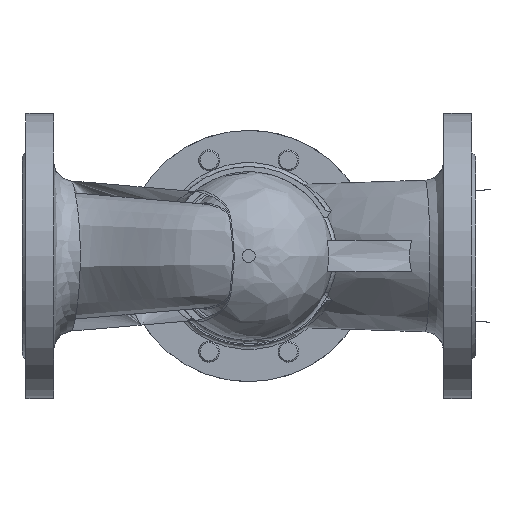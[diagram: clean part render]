
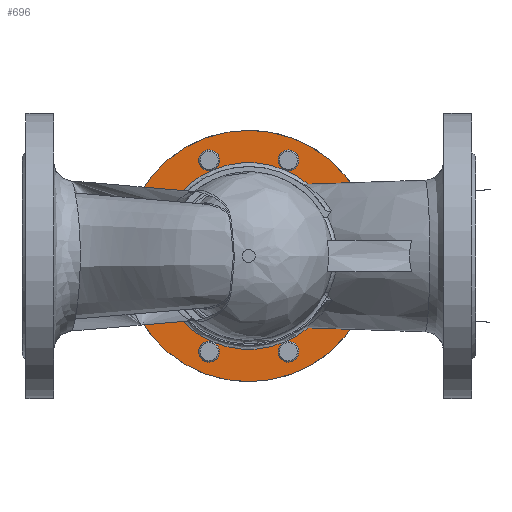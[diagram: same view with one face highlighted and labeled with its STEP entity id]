
A CAD part, front view. The second image highlights one B-rep face of the part: STEP entity #696.
In plain terms, the highlighted planar face has unit normal (0, -1, 0).
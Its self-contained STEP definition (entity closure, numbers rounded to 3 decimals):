
#696=ADVANCED_FACE('',(#16149,#16151,#16153,#16155,#16157,#16159,#16161,#16163,#16165,
#16167),#16169,.F.);
#16149=FACE_BOUND('',#16150,.T.);
#16150=EDGE_LOOP('',(#24877));
#16151=FACE_BOUND('',#16152,.T.);
#16152=EDGE_LOOP('',(#24878));
#16153=FACE_BOUND('',#16154,.T.);
#16154=EDGE_LOOP('',(#24879));
#16155=FACE_BOUND('',#16156,.T.);
#16156=EDGE_LOOP('',(#24880));
#16157=FACE_BOUND('',#16158,.T.);
#16158=EDGE_LOOP('',(#24881));
#16159=FACE_BOUND('',#16160,.T.);
#16160=EDGE_LOOP('',(#24882));
#16161=FACE_BOUND('',#16162,.T.);
#16162=EDGE_LOOP('',(#24883));
#16163=FACE_BOUND('',#16164,.T.);
#16164=EDGE_LOOP('',(#24884));
#16165=FACE_BOUND('',#16166,.T.);
#16166=EDGE_LOOP('',(#24885));
#16167=FACE_OUTER_BOUND('',#16168,.T.);
#16168=EDGE_LOOP('',(#24886));
#16169=PLANE('',#16170);
#16170=AXIS2_PLACEMENT_3D('',#16171,#16172,#16173);
#16171=CARTESIAN_POINT('',(175.,260.974,-110.));
#16172=DIRECTION('',(0.,1.,0.));
#16173=DIRECTION('',(1.,0.,0.));
#24877=ORIENTED_EDGE('',*,*,#27024,.F.);
#24878=ORIENTED_EDGE('',*,*,#27025,.F.);
#24879=ORIENTED_EDGE('',*,*,#27026,.F.);
#24880=ORIENTED_EDGE('',*,*,#27027,.F.);
#24881=ORIENTED_EDGE('',*,*,#27028,.F.);
#24882=ORIENTED_EDGE('',*,*,#27029,.F.);
#24883=ORIENTED_EDGE('',*,*,#27030,.F.);
#24884=ORIENTED_EDGE('',*,*,#27031,.F.);
#24885=ORIENTED_EDGE('',*,*,#27032,.T.);
#24886=ORIENTED_EDGE('',*,*,#27020,.F.);
#27020=EDGE_CURVE('',#29623,#29623,#29625,.T.);
#27024=EDGE_CURVE('',#29631,#29631,#29632,.F.);
#27025=EDGE_CURVE('',#29633,#29633,#29634,.F.);
#27026=EDGE_CURVE('',#29635,#29635,#29636,.F.);
#27027=EDGE_CURVE('',#29637,#29637,#29638,.F.);
#27028=EDGE_CURVE('',#29639,#29639,#29640,.F.);
#27029=EDGE_CURVE('',#29641,#29641,#29642,.F.);
#27030=EDGE_CURVE('',#29643,#29643,#29644,.F.);
#27031=EDGE_CURVE('',#29645,#29645,#29646,.F.);
#27032=EDGE_CURVE('',#29647,#29647,#29648,.T.);
#29623=VERTEX_POINT('',#49562);
#29625=CIRCLE('',#49566,97.);
#29631=VERTEX_POINT('',#49583);
#29632=CIRCLE('',#49584,8.);
#29633=VERTEX_POINT('',#49588);
#29634=CIRCLE('',#49589,8.);
#29635=VERTEX_POINT('',#49593);
#29636=CIRCLE('',#49594,8.);
#29637=VERTEX_POINT('',#49598);
#29638=CIRCLE('',#49599,8.);
#29639=VERTEX_POINT('',#49603);
#29640=CIRCLE('',#49604,8.);
#29641=VERTEX_POINT('',#49608);
#29642=CIRCLE('',#49609,8.);
#29643=VERTEX_POINT('',#49613);
#29644=CIRCLE('',#49614,8.);
#29645=VERTEX_POINT('',#49618);
#29646=CIRCLE('',#49619,8.);
#29647=VERTEX_POINT('',#49623);
#29648=CIRCLE('',#49624,72.);
#49562=CARTESIAN_POINT('',(272.,260.974,-110.));
#49566=AXIS2_PLACEMENT_3D('',#49567,#49568,#49569);
#49567=CARTESIAN_POINT('',(175.,260.974,-110.));
#49568=DIRECTION('',(0.,1.,0.));
#49569=DIRECTION('',(1.,0.,0.));
#49583=CARTESIAN_POINT('',(209.615,260.974,-29.161));
#49584=AXIS2_PLACEMENT_3D('',#49585,#49586,#49587);
#49585=CARTESIAN_POINT('',(205.615,260.974,-36.09));
#49586=DIRECTION('',(0.,1.,0.));
#49587=DIRECTION('',(1.,0.,0.));
#49588=CARTESIAN_POINT('',(105.09,260.974,-72.457));
#49589=AXIS2_PLACEMENT_3D('',#49590,#49591,#49592);
#49590=CARTESIAN_POINT('',(101.09,260.974,-79.385));
#49591=DIRECTION('',(0.,1.,0.));
#49592=DIRECTION('',(1.,0.,0.));
#49593=CARTESIAN_POINT('',(148.385,260.974,-176.982));
#49594=AXIS2_PLACEMENT_3D('',#49595,#49596,#49597);
#49595=CARTESIAN_POINT('',(144.385,260.974,-183.91));
#49596=DIRECTION('',(0.,1.,0.));
#49597=DIRECTION('',(1.,0.,0.));
#49598=CARTESIAN_POINT('',(252.91,260.974,-133.686));
#49599=AXIS2_PLACEMENT_3D('',#49600,#49601,#49602);
#49600=CARTESIAN_POINT('',(248.91,260.974,-140.615));
#49601=DIRECTION('',(0.,1.,0.));
#49602=DIRECTION('',(1.,0.,0.));
#49603=CARTESIAN_POINT('',(252.91,260.974,-72.457));
#49604=AXIS2_PLACEMENT_3D('',#49605,#49606,#49607);
#49605=CARTESIAN_POINT('',(248.91,260.974,-79.385));
#49606=DIRECTION('',(0.,1.,0.));
#49607=DIRECTION('',(1.,0.,0.));
#49608=CARTESIAN_POINT('',(209.615,260.974,-176.982));
#49609=AXIS2_PLACEMENT_3D('',#49610,#49611,#49612);
#49610=CARTESIAN_POINT('',(205.615,260.974,-183.91));
#49611=DIRECTION('',(0.,1.,0.));
#49612=DIRECTION('',(1.,0.,0.));
#49613=CARTESIAN_POINT('',(105.09,260.974,-133.686));
#49614=AXIS2_PLACEMENT_3D('',#49615,#49616,#49617);
#49615=CARTESIAN_POINT('',(101.09,260.974,-140.615));
#49616=DIRECTION('',(0.,1.,0.));
#49617=DIRECTION('',(1.,0.,0.));
#49618=CARTESIAN_POINT('',(148.385,260.974,-29.161));
#49619=AXIS2_PLACEMENT_3D('',#49620,#49621,#49622);
#49620=CARTESIAN_POINT('',(144.385,260.974,-36.09));
#49621=DIRECTION('',(0.,1.,0.));
#49622=DIRECTION('',(1.,0.,0.));
#49623=CARTESIAN_POINT('',(247.,260.974,-110.));
#49624=AXIS2_PLACEMENT_3D('',#49625,#49626,#49627);
#49625=CARTESIAN_POINT('',(175.,260.974,-110.));
#49626=DIRECTION('',(0.,1.,0.));
#49627=DIRECTION('',(1.,0.,0.));
